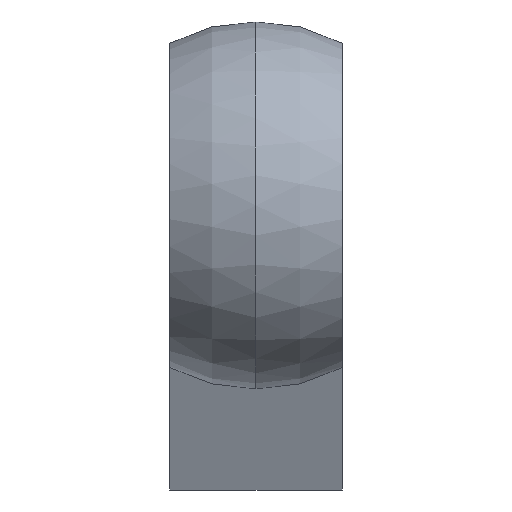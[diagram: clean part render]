
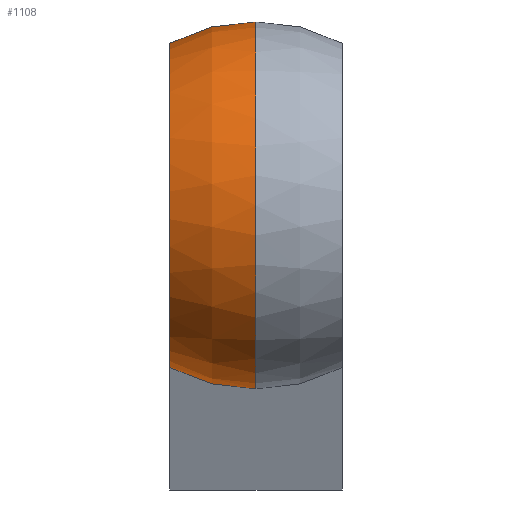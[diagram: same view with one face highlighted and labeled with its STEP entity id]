
A CAD part, front view. The second image highlights one B-rep face of the part: STEP entity #1108.
In plain terms, the highlighted spherical face has radius 3.2 mm.
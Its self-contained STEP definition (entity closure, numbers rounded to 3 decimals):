
#14 = DIRECTION ( 'NONE',  ( 0., -1., 0. ) ) ;
#50 = EDGE_CURVE ( 'NONE', #995, #560, #751, .T. ) ;
#80 = DIRECTION ( 'NONE',  ( 0., 0., -1. ) ) ;
#131 = CARTESIAN_POINT ( 'NONE',  ( 13., -201.214, 12.266 ) ) ;
#139 = EDGE_LOOP ( 'NONE', ( #141, #891, #788, #887, #779 ) ) ;
#141 = ORIENTED_EDGE ( 'NONE', *, *, #50, .T. ) ;
#169 = CARTESIAN_POINT ( 'NONE',  ( 14.5, -201.214, 10.943 ) ) ;
#196 = CARTESIAN_POINT ( 'NONE',  ( 14.5, -201.214, 10.943 ) ) ;
#318 = CARTESIAN_POINT ( 'NONE',  ( 14.5, -206.912, 10.943 ) ) ;
#341 = AXIS2_PLACEMENT_3D ( 'NONE', #430, #533, #900 ) ;
#373 = DIRECTION ( 'NONE',  ( -1., 0., 0. ) ) ;
#390 = AXIS2_PLACEMENT_3D ( 'NONE', #1183, #373, #1067 ) ;
#411 = FACE_OUTER_BOUND ( 'NONE', #139, .T. ) ;
#430 = CARTESIAN_POINT ( 'NONE',  ( 14.5, -203.712, 10.943 ) ) ;
#507 = CARTESIAN_POINT ( 'NONE',  ( 13., -203.712, 10.943 ) ) ;
#509 = CARTESIAN_POINT ( 'NONE',  ( 14.5, -201.214, 8.943 ) ) ;
#533 = DIRECTION ( 'NONE',  ( 1., 0., 0. ) ) ;
#557 = VERTEX_POINT ( 'NONE', #611 ) ;
#560 = VERTEX_POINT ( 'NONE', #509 ) ;
#570 = DIRECTION ( 'NONE',  ( 0., 0., -1. ) ) ;
#606 = DIRECTION ( 'NONE',  ( -1., 0., 0. ) ) ;
#611 = CARTESIAN_POINT ( 'NONE',  ( 14.5, -201.214, 12.943 ) ) ;
#626 = VERTEX_POINT ( 'NONE', #131 ) ;
#640 = AXIS2_PLACEMENT_3D ( 'NONE', #196, #14, #570 ) ;
#727 = AXIS2_PLACEMENT_3D ( 'NONE', #507, #959, #860 ) ;
#751 = CIRCLE ( 'NONE', #640, 2. ) ;
#769 = EDGE_CURVE ( 'NONE', #560, #998, #1068, .T. ) ;
#779 = ORIENTED_EDGE ( 'NONE', *, *, #1104, .T. ) ;
#788 = ORIENTED_EDGE ( 'NONE', *, *, #1172, .F. ) ;
#860 = DIRECTION ( 'NONE',  ( 0., 1., 0. ) ) ;
#869 = CIRCLE ( 'NONE', #727, 2.827 ) ;
#887 = ORIENTED_EDGE ( 'NONE', *, *, #1139, .T. ) ;
#890 = CIRCLE ( 'NONE', #1083, 2. ) ;
#891 = ORIENTED_EDGE ( 'NONE', *, *, #769, .T. ) ;
#900 = DIRECTION ( 'NONE',  ( 0., 1., 0. ) ) ;
#930 = AXIS2_PLACEMENT_3D ( 'NONE', #1134, #606, #1143 ) ;
#959 = DIRECTION ( 'NONE',  ( 1., 0., 0. ) ) ;
#979 = DIRECTION ( 'NONE',  ( 0., -1., 0. ) ) ;
#995 = VERTEX_POINT ( 'NONE', #1042 ) ;
#998 = VERTEX_POINT ( 'NONE', #318 ) ;
#1028 = CIRCLE ( 'NONE', #341, 3.2 ) ;
#1042 = CARTESIAN_POINT ( 'NONE',  ( 13., -201.214, 9.62 ) ) ;
#1067 = DIRECTION ( 'NONE',  ( 0., 0., 1. ) ) ;
#1068 = CIRCLE ( 'NONE', #390, 3.2 ) ;
#1083 = AXIS2_PLACEMENT_3D ( 'NONE', #169, #979, #80 ) ;
#1104 = EDGE_CURVE ( 'NONE', #626, #995, #869, .T. ) ;
#1108 = ADVANCED_FACE ( 'NONE', ( #411 ), #1126, .T. ) ;
#1126 = SPHERICAL_SURFACE ( 'NONE', #930, 3.2 ) ;
#1134 = CARTESIAN_POINT ( 'NONE',  ( 14.5, -203.712, 10.943 ) ) ;
#1139 = EDGE_CURVE ( 'NONE', #557, #626, #890, .T. ) ;
#1143 = DIRECTION ( 'NONE',  ( 0., 0., 1. ) ) ;
#1172 = EDGE_CURVE ( 'NONE', #557, #998, #1028, .T. ) ;
#1183 = CARTESIAN_POINT ( 'NONE',  ( 14.5, -203.712, 10.943 ) ) ;
